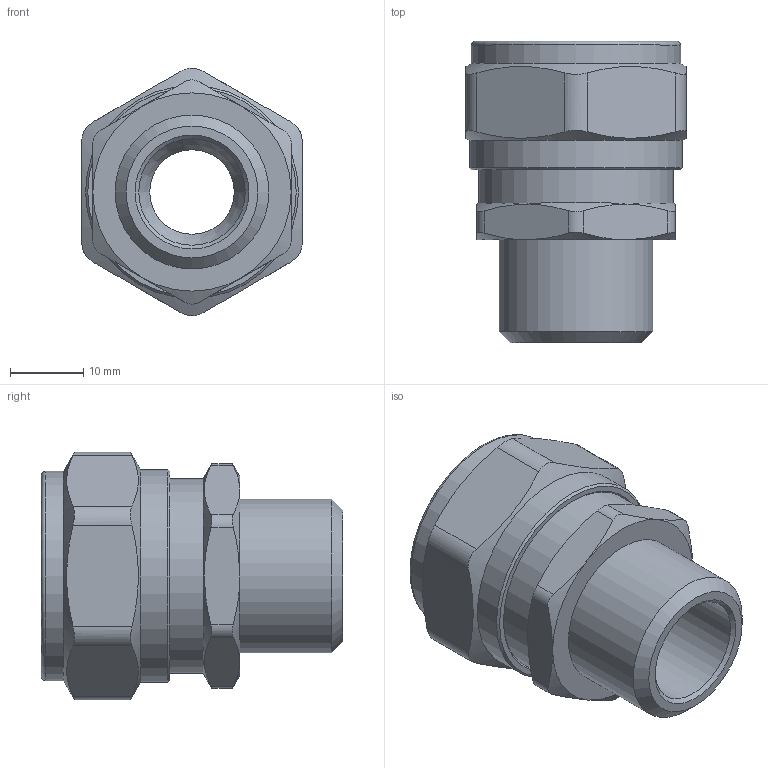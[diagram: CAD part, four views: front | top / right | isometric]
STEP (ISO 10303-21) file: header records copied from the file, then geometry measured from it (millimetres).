
FILE_DESCRIPTION(('STEP AP203'), '1');
FILE_NAME('VTm.301.N.002004', '', ('UNSPECIFIED'), ('UNSPECIFIED'), 'C3D Converter', 'C3D Toolkit', '');
FILE_SCHEMA(('CONFIG_CONTROL_DESIGN'));
Length unit declared in the file: millimetre
Products named in the file (1): ВР.302634.051.000 СБ
Bounding box: 30 x 41.03 x 33.7 mm (x, y, z)
Volume: 14583 mm3; surface area: 10085.8 mm2
Topology: 1 solids, 1 shells, 304 faces, 819 edges, 538 vertices
Faces by surface type: extrusion 117, plane 104, cylinder 37, torus 27, cone 19
Full cylindrical faces by diameter (mm): 11.5 x1, 14.5 x1, 15.8 x4, 15.9 x1, 20.1 x1, 20.2 x1, 20.7 x1, 20.955 x1, 24.118 x1, 26.441 x1, 28.5 x1, 29 x1
Entity records: 11641 total; most frequent: CARTESIAN_POINT 4732, ORIENTED_EDGE 1558, DIRECTION 1030, EDGE_CURVE 779, VERTEX_POINT 538, VECTOR 446, B_SPLINE_CURVE_WITH_KNOTS 443, EDGE_LOOP 369
